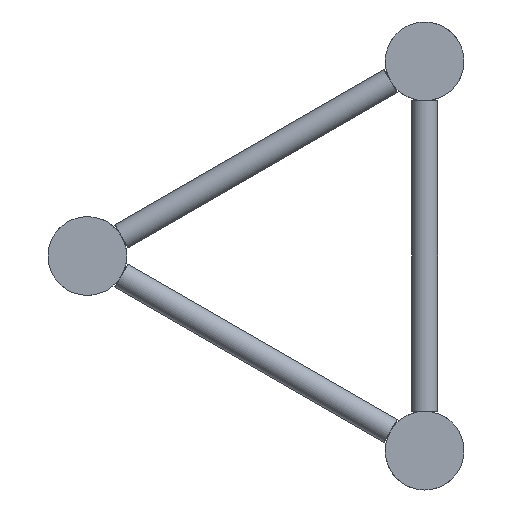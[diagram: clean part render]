
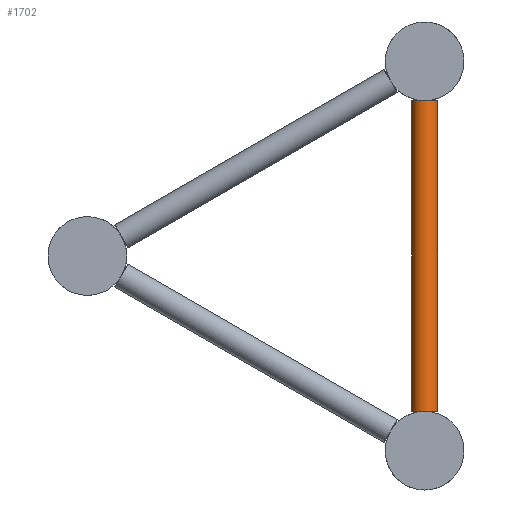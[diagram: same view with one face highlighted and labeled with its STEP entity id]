
A CAD part, left-side view. The second image highlights one B-rep face of the part: STEP entity #1702.
In plain terms, the highlighted cylindrical face has radius 8 mm (diameter 16 mm), a full revolution.
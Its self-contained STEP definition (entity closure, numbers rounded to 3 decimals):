
#79=CIRCLE('',#1933,8.);
#91=CIRCLE('',#1958,8.);
#92=CIRCLE('',#1960,8.);
#93=CIRCLE('',#1962,8.);
#193=FACE_BOUND('',#582,.T.);
#262=CYLINDRICAL_SURFACE('',#1961,8.);
#381=FACE_OUTER_BOUND('',#581,.T.);
#581=EDGE_LOOP('',(#1187,#1188));
#582=EDGE_LOOP('',(#1189,#1190));
#805=VERTEX_POINT('',#2804);
#806=VERTEX_POINT('',#2805);
#815=VERTEX_POINT('',#2828);
#816=VERTEX_POINT('',#2829);
#937=EDGE_CURVE('',#806,#805,#79,.T.);
#953=EDGE_CURVE('',#816,#815,#91,.T.);
#954=EDGE_CURVE('',#805,#806,#92,.T.);
#955=EDGE_CURVE('',#815,#816,#93,.T.);
#1187=ORIENTED_EDGE('',*,*,#937,.T.);
#1188=ORIENTED_EDGE('',*,*,#954,.T.);
#1189=ORIENTED_EDGE('',*,*,#953,.T.);
#1190=ORIENTED_EDGE('',*,*,#955,.T.);
#1702=ADVANCED_FACE('',(#381,#193),#262,.T.);
#1933=AXIS2_PLACEMENT_3D('',#2811,#2347,#2348);
#1958=AXIS2_PLACEMENT_3D('',#2852,#2401,#2402);
#1960=AXIS2_PLACEMENT_3D('',#2854,#2405,#2406);
#1961=AXIS2_PLACEMENT_3D('',#2855,#2407,#2408);
#1962=AXIS2_PLACEMENT_3D('',#2856,#2409,#2410);
#2347=DIRECTION('center_axis',(0.,0.,
1.));
#2348=DIRECTION('ref_axis',(-1.,0.,0.));
#2401=DIRECTION('center_axis',(0.,0.,
-1.));
#2402=DIRECTION('ref_axis',(-1.,0.,0.));
#2405=DIRECTION('center_axis',(0.,0.,
1.));
#2406=DIRECTION('ref_axis',(-1.,0.,0.));
#2407=DIRECTION('center_axis',(0.,0.,
1.));
#2408=DIRECTION('ref_axis',(-1.,0.,0.));
#2409=DIRECTION('center_axis',(0.,0.,
-1.));
#2410=DIRECTION('ref_axis',(-1.,0.,0.));
#2804=CARTESIAN_POINT('',(52.,0.,-214.85));
#2805=CARTESIAN_POINT('',(68.,0.,-214.85));
#2811=CARTESIAN_POINT('Origin',(60.,0.,-214.85));
#2828=CARTESIAN_POINT('',(52.,0.,-24.15));
#2829=CARTESIAN_POINT('',(68.,0.,-24.15));
#2852=CARTESIAN_POINT('Origin',(60.,0.,-24.15));
#2854=CARTESIAN_POINT('Origin',(60.,0.,-214.85));
#2855=CARTESIAN_POINT('Origin',(60.,0.,-119.5));
#2856=CARTESIAN_POINT('Origin',(60.,0.,-24.15));
